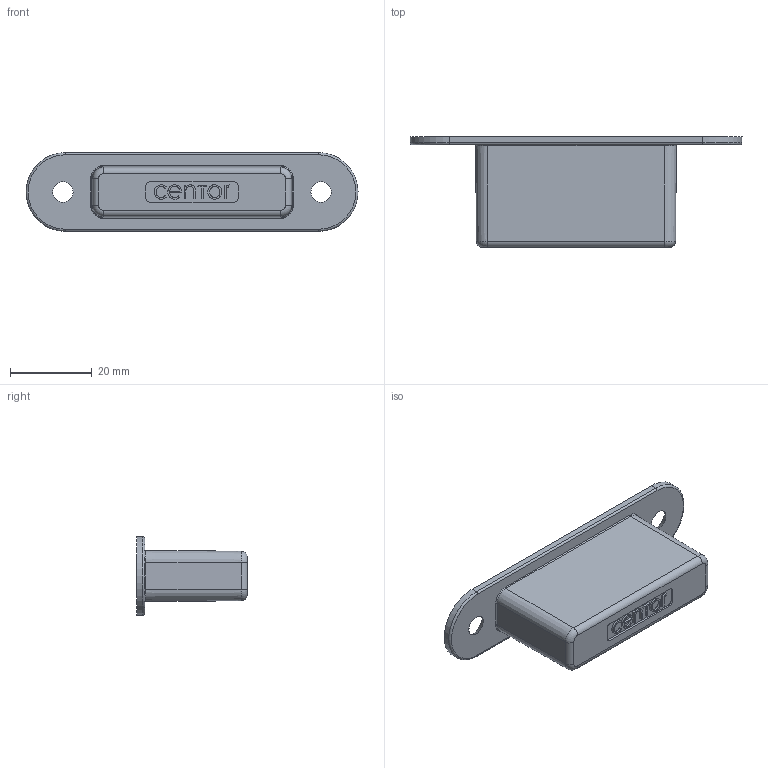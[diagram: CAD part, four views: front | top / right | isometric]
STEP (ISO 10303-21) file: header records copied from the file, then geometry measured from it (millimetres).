
FILE_DESCRIPTION (( 'STEP AP214' ), '1' );
FILE_NAME ('TPL-W-032 double cup 04June2025.STEP', '2025-06-04T01:21:21', ( '' ), ( '' ), 'SwSTEP 2.0', 'SolidWorks 2023', '' );
FILE_SCHEMA (( 'AUTOMOTIVE_DESIGN' ));
Length unit declared in the file: millimetre
Products named in the file (1): TPL-W-032 double cup 04June2025
Bounding box: 81 x 27 x 19.2 mm (x, y, z)
Volume: 7682.5 mm3; surface area: 8688.1 mm2
Topology: 1 solids, 1 shells, 180 faces, 461 edges, 294 vertices
Faces by surface type: bspline 65, plane 57, cylinder 26, torus 18, cone 14
Entity records: 5800 total; most frequent: CARTESIAN_POINT 1781, ORIENTED_EDGE 922, DIRECTION 657, EDGE_CURVE 461, VERTEX_POINT 294, VECTOR 237, LINE 237, AXIS2_PLACEMENT_3D 210
